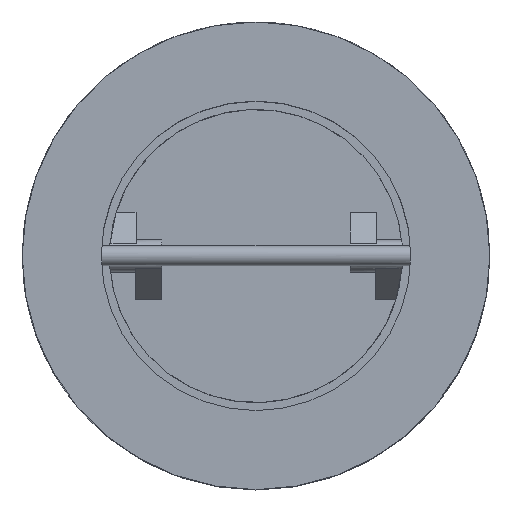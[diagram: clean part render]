
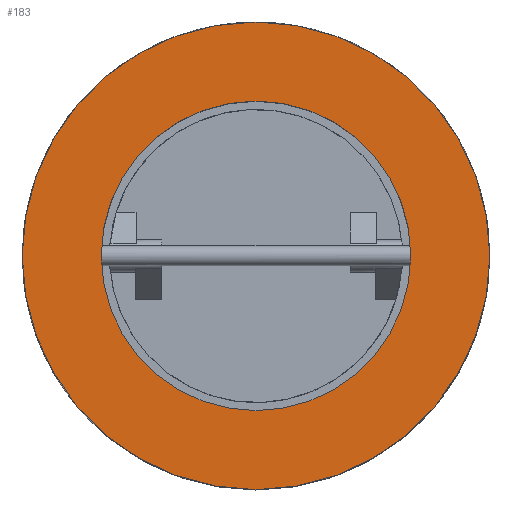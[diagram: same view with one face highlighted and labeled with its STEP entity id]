
A CAD part, top view. The second image highlights one B-rep face of the part: STEP entity #183.
In plain terms, the highlighted planar face has unit normal (0, 0, 1).
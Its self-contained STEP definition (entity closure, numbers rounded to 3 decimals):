
#183=ADVANCED_FACE('',(#822,#824),#826,.T.);
#822=FACE_BOUND('',#823,.T.);
#823=EDGE_LOOP('',(#1339));
#824=FACE_BOUND('',#825,.T.);
#825=EDGE_LOOP('',(#1340));
#826=PLANE('',#827);
#827=AXIS2_PLACEMENT_3D('',#828,#829,#830);
#828=CARTESIAN_POINT('',(0.,0.,64.));
#829=DIRECTION('',(0.,0.,1.));
#830=DIRECTION('',(0.,-1.,0.));
#1339=ORIENTED_EDGE('',*,*,#1681,.T.);
#1340=ORIENTED_EDGE('',*,*,#1691,.F.);
#1681=EDGE_CURVE('',#1899,#1899,#1900,.T.);
#1691=EDGE_CURVE('',#1919,#1919,#1920,.T.);
#1899=VERTEX_POINT('',#2306);
#1900=CIRCLE('',#2307,71.);
#1919=VERTEX_POINT('',#2352);
#1920=CIRCLE('',#2353,47.);
#2306=CARTESIAN_POINT('',(0.,-71.,64.));
#2307=AXIS2_PLACEMENT_3D('',#2308,#2309,#2310);
#2308=CARTESIAN_POINT('',(0.,0.,64.));
#2309=DIRECTION('',(0.,0.,1.));
#2310=DIRECTION('',(0.,-1.,0.));
#2352=CARTESIAN_POINT('',(0.,-47.,64.));
#2353=AXIS2_PLACEMENT_3D('',#2354,#2355,#2356);
#2354=CARTESIAN_POINT('',(0.,0.,64.));
#2355=DIRECTION('',(0.,0.,1.));
#2356=DIRECTION('',(0.,-1.,0.));
